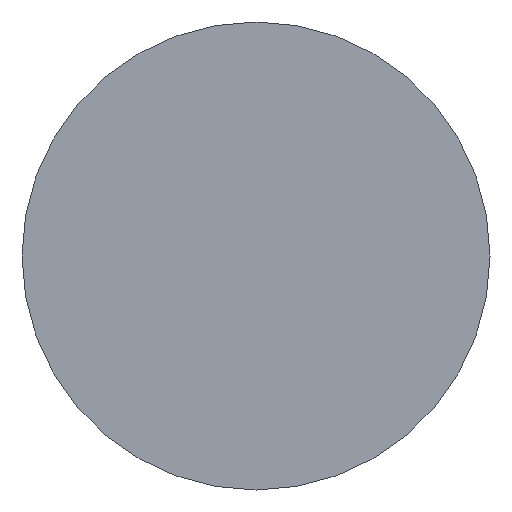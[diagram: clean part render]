
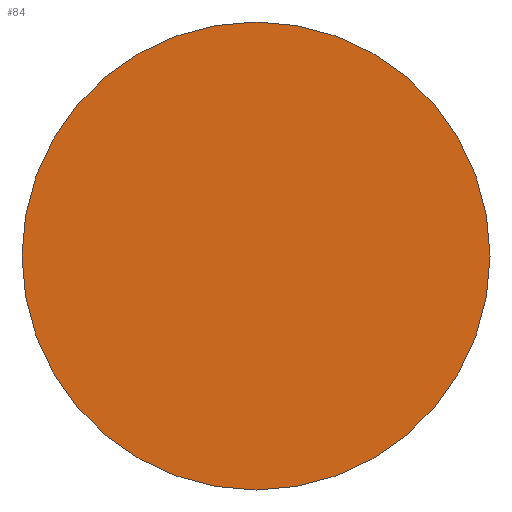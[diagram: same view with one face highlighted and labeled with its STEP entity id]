
A CAD part, left-side view. The second image highlights one B-rep face of the part: STEP entity #84.
In plain terms, the highlighted planar face has unit normal (-1, 0, 0).
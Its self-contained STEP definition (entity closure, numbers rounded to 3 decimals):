
#17=PLANE('',#113);
#21=FACE_OUTER_BOUND('',#26,.T.);
#26=EDGE_LOOP('',(#68,#69));
#38=CIRCLE('',#114,1.75);
#39=CIRCLE('',#115,1.75);
#46=VERTEX_POINT('',#163);
#47=VERTEX_POINT('',#164);
#55=EDGE_CURVE('',#46,#47,#38,.T.);
#56=EDGE_CURVE('',#47,#46,#39,.T.);
#68=ORIENTED_EDGE('',*,*,#55,.F.);
#69=ORIENTED_EDGE('',*,*,#56,.F.);
#84=ADVANCED_FACE('',(#21),#17,.T.);
#113=AXIS2_PLACEMENT_3D('',#162,#135,#136);
#114=AXIS2_PLACEMENT_3D('',#165,#137,#138);
#115=AXIS2_PLACEMENT_3D('',#166,#139,#140);
#135=DIRECTION('center_axis',(-1.,0.,0.));
#136=DIRECTION('ref_axis',(0.,0.,1.));
#137=DIRECTION('center_axis',(1.,0.,0.));
#138=DIRECTION('ref_axis',(0.,0.,-1.));
#139=DIRECTION('center_axis',(1.,0.,0.));
#140=DIRECTION('ref_axis',(0.,0.,-1.));
#162=CARTESIAN_POINT('Origin',(-41.5,1.75,0.));
#163=CARTESIAN_POINT('',(-41.5,1.75,0.));
#164=CARTESIAN_POINT('',(-41.5,-1.75,0.));
#165=CARTESIAN_POINT('Origin',(-41.5,0.,0.));
#166=CARTESIAN_POINT('Origin',(-41.5,0.,0.));
